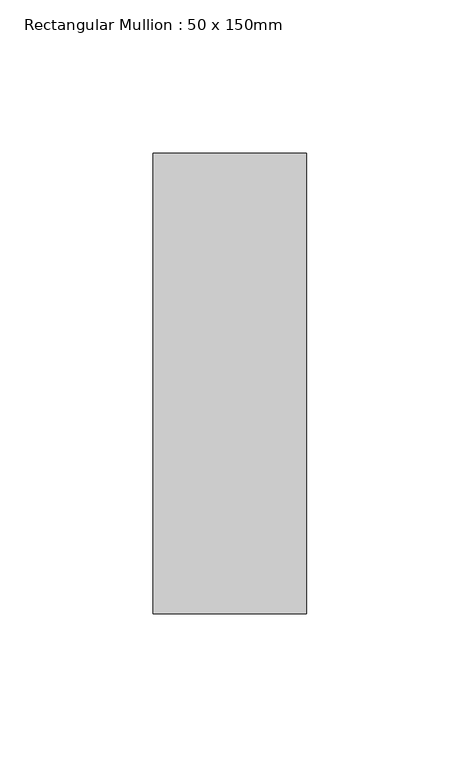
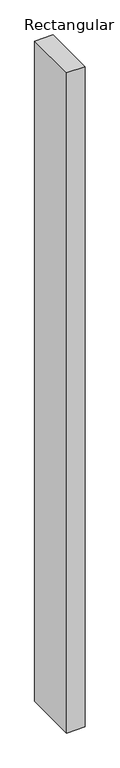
"""IFC4 building model written with IfcOpenShell, lengths in millimetres: member geometry, Rectangular Mullion : 50 x 150mm."""

from ifc_helpers import new_model, si_unit, frame, origin, place, context, project, spatial, polyline, outline, extrude, source, transform, mapped, element, save


def rectangular_mullion_50_x_150mm_8c690f5a(model_context):
    return source(origin(), model_context, "Body", "SweptSolid", [
        extrude(outline(polyline([(0.0, 75.0), (0.0, -75.0), (-50.0, -75.0), (-50.0, 75.0), (0.0, 75.0)])), frame((0.0, 0.0, -1885.0), z_axis=(0.0, 0.0, 1.0), x_axis=(1.0, 0.0, 0.0)), (0.0, 0.0, 1.0), 1885.0),
    ])


if __name__ == "__main__":
    model = new_model("IFC4")
    model_context = context("Model", 3, world=origin())
    ifc_project = project(units=[si_unit("LENGTHUNIT", "METRE", prefix="MILLI")], contexts=[model_context])
    site = spatial("IfcSite", under=ifc_project)
    building = spatial("IfcBuilding", under=site)
    placement = place(None, origin())
    rectangular_mullion_50_x_150mm_shape = rectangular_mullion_50_x_150mm_8c690f5a(model_context)
    element("IfcMember", 1, ObjectType="Rectangular Mullion : 50 x 150mm", at=placement, inside=building, context=model_context, shape_type="MappedRepresentation", body=[
        mapped(rectangular_mullion_50_x_150mm_shape, transform((0.0, 0.0, 0.0), x_axis=(1.0, 0.0, 0.0), y_axis=(0.0, 1.0, 0.0), z_axis=(0.0, 0.0, 1.0))),
    ])
    save(model, "model.ifc")
